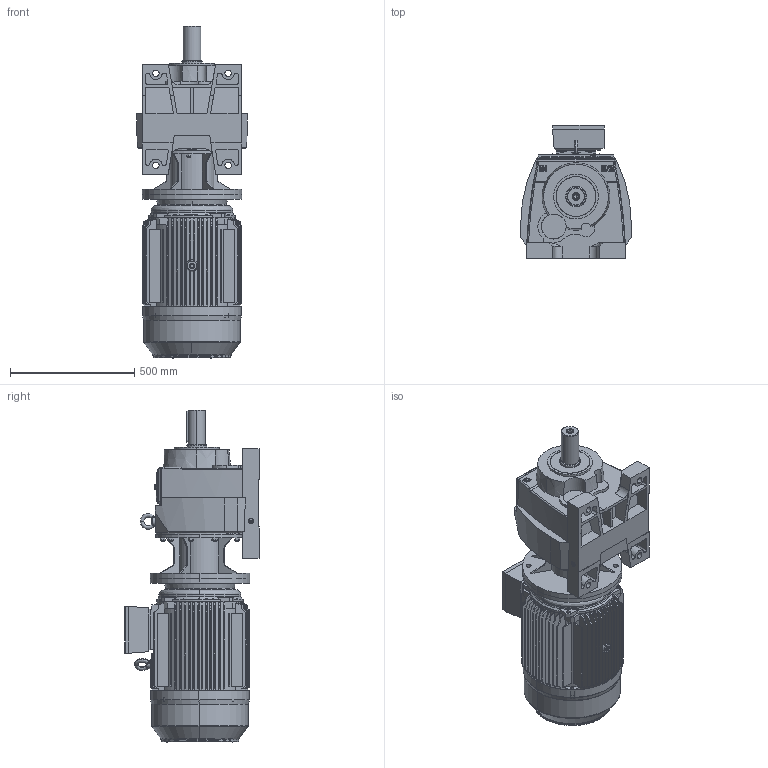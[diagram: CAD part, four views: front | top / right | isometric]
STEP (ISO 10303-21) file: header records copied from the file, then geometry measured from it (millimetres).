
FILE_DESCRIPTION (( 'STEP AP203' ), '1' );
FILE_NAME ('MV672-MV673-M3-200L-4.STEP', '2019-07-24T11:36:03', ( '' ), ( '' ), 'SwSTEP 2.0', 'SolidWorks 2012', '' );
FILE_SCHEMA (( 'CONFIG_CONTROL_DESIGN' ));
Products named in the file (15): 200-4B5; MV672-MV673-M3-200L-4; ﾍﾟYE3-200L-4.6.8C+ﾎA+ｳ_-ｼ+､; Plain parallel keys_GB_CONNECTING_PIECE_KEYS_CSK 16X100; Y2-200-4.6.8¦¾Íß¦ð-Ô©Ã_-¼+¤; Y2-200-2.4.6.8ｦｾﾂ-ｩﾃ_-ｼ+､; Y2-200-4.6.8Ã¦Íß¦ð-Ô©Ã_-¼+¤; Y2-200+ｷﾎｨB5_-ｼ+､; Eyebolts GB_GB_FASTENER_SCREWS_FRS M16-N; MN2-200ﾀiﾍ_-ｼ+､; MN_67_3_0_A-B20_B5_ML6A_0_0_0_0_0_0_0_0_0_0_0_0_M1; ML6A_Varsayìlan; Y2-200-4.6.8-ｦﾈﾁﾂ-ｩﾃ_-ｼ+､; M673_Varsayìlan; 63200B5_Varsayìlan
Assembly tree (14 placements, depth 3):
  MV672-MV673-M3-200L-4
    MN_67_3_0_A-B20_B5_ML6A_0_0_0_0_0_0_0_0_0_0_0_0_M1
      M673_Varsayìlan
      63200B5_Varsayìlan
      ML6A_Varsayìlan
    200-4B5
      Y2-200-4.6.8-ｦﾈﾁﾂ-ｩﾃ_-ｼ+､
      MN2-200ﾀiﾍ_-ｼ+､
      Eyebolts GB_GB_FASTENER_SCREWS_FRS M16-N
      Y2-200+ｷﾎｨB5_-ｼ+､
      Y2-200-4.6.8Ã¦Íß¦ð-Ô©Ã_-¼+¤
      ﾍﾟYE3-200L-4.6.8C+ﾎA+ｳ_-ｼ+､
      Y2-200-2.4.6.8ｦｾﾂ-ｩﾃ_-ｼ+､
      Y2-200-4.6.8¦¾Íß¦ð-Ô©Ã_-¼+¤
      Plain parallel keys_GB_CONNECTING_PIECE_KEYS_CSK 16X100
Bounding box: 445 x 538.31 x 1333.7 mm (x, y, z)
Volume: 69783487.1 mm3; surface area: 5680263.9 mm2
Topology: 12 solids, 12 shells, 2251 faces, 5738 edges, 3627 vertices
Faces by surface type: plane 868, cylinder 638, cone 545, bspline 200
Entity records: 93152 total; most frequent: CARTESIAN_POINT 39601, ORIENTED_EDGE 11446, DIRECTION 10006, EDGE_CURVE 5723, AXIS2_PLACEMENT_3D 3775, VERTEX_POINT 3627, EDGE_LOOP 2480, VECTOR 2456
